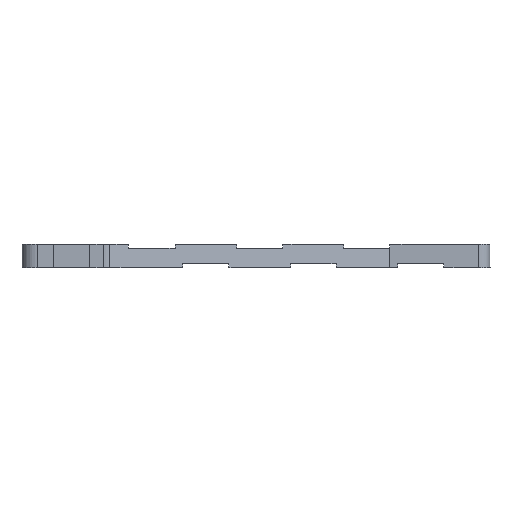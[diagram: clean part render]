
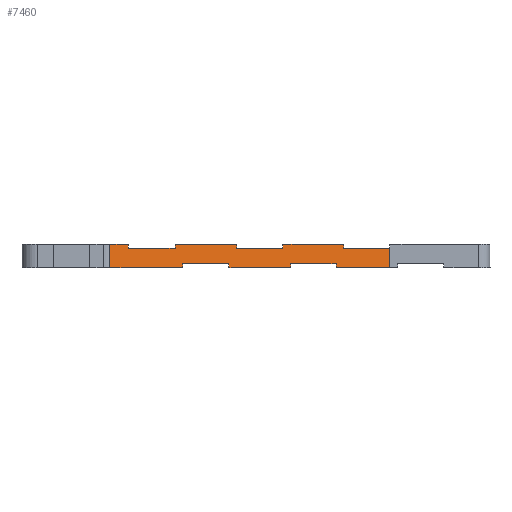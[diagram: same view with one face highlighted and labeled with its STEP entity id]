
A CAD part, left-side view. The second image highlights one B-rep face of the part: STEP entity #7460.
In plain terms, the highlighted planar face has unit normal (-0.909, -0.417, 0).
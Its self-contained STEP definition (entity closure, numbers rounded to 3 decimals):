
#622=LINE('',#11537,#1520);
#627=LINE('',#11547,#1525);
#629=LINE('',#11551,#1527);
#631=LINE('',#11555,#1529);
#633=LINE('',#11559,#1531);
#636=LINE('',#11565,#1534);
#637=LINE('',#11567,#1535);
#639=LINE('',#11571,#1537);
#641=LINE('',#11575,#1539);
#662=LINE('',#11650,#1560);
#664=LINE('',#11654,#1562);
#683=LINE('',#11717,#1581);
#932=LINE('',#12526,#1830);
#933=LINE('',#12529,#1831);
#934=LINE('',#12531,#1832);
#935=LINE('',#12533,#1833);
#936=LINE('',#12535,#1834);
#937=LINE('',#12537,#1835);
#938=LINE('',#12539,#1836);
#939=LINE('',#12540,#1837);
#940=LINE('',#12541,#1838);
#941=LINE('',#12543,#1839);
#1520=VECTOR('',#8999,1000.);
#1525=VECTOR('',#9008,1000.);
#1527=VECTOR('',#9012,1000.);
#1529=VECTOR('',#9016,1000.);
#1531=VECTOR('',#9020,1000.);
#1534=VECTOR('',#9025,1000.);
#1535=VECTOR('',#9028,1000.);
#1537=VECTOR('',#9032,1000.);
#1539=VECTOR('',#9036,1000.);
#1560=VECTOR('',#9077,1000.);
#1562=VECTOR('',#9081,1000.);
#1581=VECTOR('',#9124,1000.);
#1830=VECTOR('',#9649,1000.);
#1831=VECTOR('',#9650,1000.);
#1832=VECTOR('',#9651,1000.);
#1833=VECTOR('',#9652,1000.);
#1834=VECTOR('',#9653,1000.);
#1835=VECTOR('',#9654,1000.);
#1836=VECTOR('',#9655,1000.);
#1837=VECTOR('',#9656,1000.);
#1838=VECTOR('',#9657,1000.);
#1839=VECTOR('',#9658,1000.);
#3624=ORIENTED_EDGE('',*,*,#5044,.T.);
#3625=ORIENTED_EDGE('',*,*,#5045,.T.);
#3626=ORIENTED_EDGE('',*,*,#5046,.T.);
#3627=ORIENTED_EDGE('',*,*,#5047,.T.);
#3628=ORIENTED_EDGE('',*,*,#5048,.T.);
#3629=ORIENTED_EDGE('',*,*,#5049,.T.);
#3630=ORIENTED_EDGE('',*,*,#5050,.T.);
#3631=ORIENTED_EDGE('',*,*,#4684,.F.);
#3632=ORIENTED_EDGE('',*,*,#4703,.F.);
#3633=ORIENTED_EDGE('',*,*,#4701,.F.);
#3634=ORIENTED_EDGE('',*,*,#4699,.F.);
#3635=ORIENTED_EDGE('',*,*,#4698,.F.);
#3636=ORIENTED_EDGE('',*,*,#4695,.F.);
#3637=ORIENTED_EDGE('',*,*,#4693,.F.);
#3638=ORIENTED_EDGE('',*,*,#4691,.F.);
#3639=ORIENTED_EDGE('',*,*,#4689,.F.);
#3640=ORIENTED_EDGE('',*,*,#4738,.F.);
#3641=ORIENTED_EDGE('',*,*,#4736,.F.);
#3642=ORIENTED_EDGE('',*,*,#5051,.T.);
#3643=ORIENTED_EDGE('',*,*,#4768,.T.);
#3644=ORIENTED_EDGE('',*,*,#5052,.T.);
#3645=ORIENTED_EDGE('',*,*,#5053,.T.);
#4684=EDGE_CURVE('',#5631,#5632,#622,.T.);
#4689=EDGE_CURVE('',#5634,#5635,#627,.T.);
#4691=EDGE_CURVE('',#5635,#5636,#629,.T.);
#4693=EDGE_CURVE('',#5636,#5637,#631,.T.);
#4695=EDGE_CURVE('',#5637,#5638,#633,.T.);
#4698=EDGE_CURVE('',#5638,#5639,#636,.T.);
#4699=EDGE_CURVE('',#5639,#5640,#637,.T.);
#4701=EDGE_CURVE('',#5640,#5641,#639,.T.);
#4703=EDGE_CURVE('',#5641,#5631,#641,.T.);
#4736=EDGE_CURVE('',#5673,#5674,#662,.T.);
#4738=EDGE_CURVE('',#5674,#5634,#664,.T.);
#4768=EDGE_CURVE('',#5703,#5702,#683,.T.);
#5044=EDGE_CURVE('',#5852,#5853,#932,.T.);
#5045=EDGE_CURVE('',#5853,#5854,#933,.T.);
#5046=EDGE_CURVE('',#5854,#5855,#934,.T.);
#5047=EDGE_CURVE('',#5855,#5856,#935,.T.);
#5048=EDGE_CURVE('',#5856,#5857,#936,.T.);
#5049=EDGE_CURVE('',#5857,#5858,#937,.T.);
#5050=EDGE_CURVE('',#5858,#5632,#938,.T.);
#5051=EDGE_CURVE('',#5673,#5703,#939,.T.);
#5052=EDGE_CURVE('',#5702,#5859,#940,.T.);
#5053=EDGE_CURVE('',#5859,#5852,#941,.T.);
#5631=VERTEX_POINT('',#11536);
#5632=VERTEX_POINT('',#11538);
#5634=VERTEX_POINT('',#11546);
#5635=VERTEX_POINT('',#11548);
#5636=VERTEX_POINT('',#11552);
#5637=VERTEX_POINT('',#11556);
#5638=VERTEX_POINT('',#11560);
#5639=VERTEX_POINT('',#11564);
#5640=VERTEX_POINT('',#11568);
#5641=VERTEX_POINT('',#11572);
#5673=VERTEX_POINT('',#11649);
#5674=VERTEX_POINT('',#11651);
#5702=VERTEX_POINT('',#11716);
#5703=VERTEX_POINT('',#11718);
#5852=VERTEX_POINT('',#12527);
#5853=VERTEX_POINT('',#12528);
#5854=VERTEX_POINT('',#12530);
#5855=VERTEX_POINT('',#12532);
#5856=VERTEX_POINT('',#12534);
#5857=VERTEX_POINT('',#12536);
#5858=VERTEX_POINT('',#12538);
#5859=VERTEX_POINT('',#12542);
#6351=EDGE_LOOP('',(#3624,#3625,#3626,#3627,#3628,#3629,#3630,#3631,#3632,
#3633,#3634,#3635,#3636,#3637,#3638,#3639,#3640,#3641,#3642,#3643,#3644,
#3645));
#6767=FACE_BOUND('',#6351,.T.);
#7090=PLANE('',#7970);
#7460=ADVANCED_FACE('',(#6767),#7090,.T.);
#7970=AXIS2_PLACEMENT_3D('',#12525,#9647,#9648);
#8999=DIRECTION('',(0.418,-0.909,0.));
#9008=DIRECTION('',(0.418,-0.909,0.));
#9012=DIRECTION('',(0.,0.,1.));
#9016=DIRECTION('',(0.418,-0.909,0.));
#9020=DIRECTION('',(0.,0.,-1.));
#9025=DIRECTION('',(0.418,-0.909,0.));
#9028=DIRECTION('',(0.,0.,1.));
#9032=DIRECTION('',(0.418,-0.909,0.));
#9036=DIRECTION('',(0.,0.,-1.));
#9077=DIRECTION('',(0.418,-0.909,0.));
#9081=DIRECTION('',(0.,0.,-1.));
#9124=DIRECTION('',(0.418,-0.909,0.));
#9647=DIRECTION('',(-0.909,-0.418,0.));
#9648=DIRECTION('',(-0.418,0.909,0.));
#9649=DIRECTION('',(0.,0.,-1.));
#9650=DIRECTION('',(0.418,-0.909,0.));
#9651=DIRECTION('',(0.,0.,1.));
#9652=DIRECTION('',(0.418,-0.909,0.));
#9653=DIRECTION('',(0.,0.,-1.));
#9654=DIRECTION('',(0.418,-0.909,0.));
#9655=DIRECTION('',(0.,0.,1.));
#9656=DIRECTION('',(0.,0.,-1.));
#9657=DIRECTION('',(0.,0.,1.));
#9658=DIRECTION('',(0.418,-0.909,0.));
#11536=CARTESIAN_POINT('',(-54.626,12.952,1.5));
#11537=CARTESIAN_POINT('',(-53.248,9.952,1.5));
#11538=CARTESIAN_POINT('',(-51.87,6.952,1.5));
#11546=CARTESIAN_POINT('',(-67.491,40.952,1.5));
#11547=CARTESIAN_POINT('',(-66.092,37.907,1.5));
#11548=CARTESIAN_POINT('',(-64.693,34.861,1.5));
#11551=CARTESIAN_POINT('',(-64.693,34.861,1.75));
#11552=CARTESIAN_POINT('',(-64.693,34.861,2.));
#11555=CARTESIAN_POINT('',(-62.855,30.861,2.));
#11556=CARTESIAN_POINT('',(-61.017,26.861,2.));
#11559=CARTESIAN_POINT('',(-61.017,26.861,1.75));
#11560=CARTESIAN_POINT('',(-61.017,26.861,1.5));
#11564=CARTESIAN_POINT('',(-58.26,20.861,1.5));
#11565=CARTESIAN_POINT('',(-59.639,23.861,1.5));
#11567=CARTESIAN_POINT('',(-58.26,20.861,1.75));
#11568=CARTESIAN_POINT('',(-58.26,20.861,2.));
#11571=CARTESIAN_POINT('',(-56.443,16.907,2.));
#11572=CARTESIAN_POINT('',(-54.626,12.952,2.));
#11575=CARTESIAN_POINT('',(-54.626,12.952,1.75));
#11649=CARTESIAN_POINT('',(-68.587,43.337,2.));
#11650=CARTESIAN_POINT('',(-68.039,42.145,2.));
#11651=CARTESIAN_POINT('',(-67.491,40.952,2.));
#11654=CARTESIAN_POINT('',(-67.491,40.952,1.75));
#11716=CARTESIAN_POINT('',(-64.233,33.861,-1.));
#11717=CARTESIAN_POINT('',(-66.41,38.599,-1.));
#11718=CARTESIAN_POINT('',(-68.587,43.337,-1.));
#12525=CARTESIAN_POINT('',(-51.444,6.026,2.963));
#12526=CARTESIAN_POINT('',(-61.477,27.861,-0.75));
#12527=CARTESIAN_POINT('',(-61.477,27.861,-0.5));
#12528=CARTESIAN_POINT('',(-61.477,27.861,-1.));
#12529=CARTESIAN_POINT('',(-59.639,23.861,-1.));
#12530=CARTESIAN_POINT('',(-57.801,19.861,-1.));
#12531=CARTESIAN_POINT('',(-57.801,19.861,-0.75));
#12532=CARTESIAN_POINT('',(-57.801,19.861,-0.5));
#12533=CARTESIAN_POINT('',(-56.443,16.907,-0.5));
#12534=CARTESIAN_POINT('',(-55.086,13.952,-0.5));
#12535=CARTESIAN_POINT('',(-55.086,13.952,-0.75));
#12536=CARTESIAN_POINT('',(-55.086,13.952,-1.));
#12537=CARTESIAN_POINT('',(-53.478,10.452,-1.));
#12538=CARTESIAN_POINT('',(-51.87,6.952,-1.));
#12539=CARTESIAN_POINT('',(-51.87,6.952,0.25));
#12540=CARTESIAN_POINT('',(-68.587,43.337,0.5));
#12541=CARTESIAN_POINT('',(-64.233,33.861,-0.75));
#12542=CARTESIAN_POINT('',(-64.233,33.861,-0.5));
#12543=CARTESIAN_POINT('',(-62.855,30.861,-0.5));
